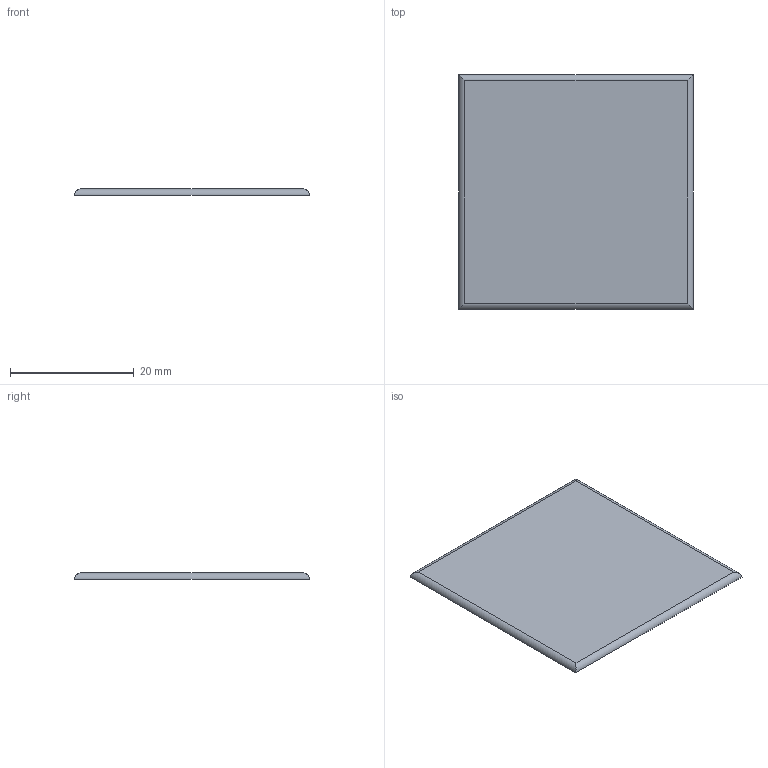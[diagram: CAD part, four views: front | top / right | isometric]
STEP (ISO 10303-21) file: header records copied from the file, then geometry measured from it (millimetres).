
FILE_DESCRIPTION(('STEP AP203'), '1');
FILE_NAME('ñîåäèíèòåëü çàìîê äëÿ ñåãìåíòîâ îáå÷àéêè', '', ('UNSPECIFIED'), ('UNSPECIFIED'), 'ASCON STEP Converter 1.3', 'ASCON Math Kernel', '');
FILE_SCHEMA(('CONFIG_CONTROL_DESIGN'));
Length unit declared in the file: millimetre
Bounding box: 38 x 38 x 1 mm (x, y, z)
Volume: 1411.8 mm3; surface area: 2974.2 mm2
Topology: 1 solids, 1 shells, 6 faces, 12 edges, 8 vertices
Faces by surface type: cylinder 4, plane 2
Entity records: 248 total; most frequent: CARTESIAN_POINT 39, ORIENTED_EDGE 24, DIRECTION 22, EDGE_CURVE 12, VERTEX_POINT 8, LINE 8, VECTOR 8, AXIS2_PLACEMENT_3D 7
